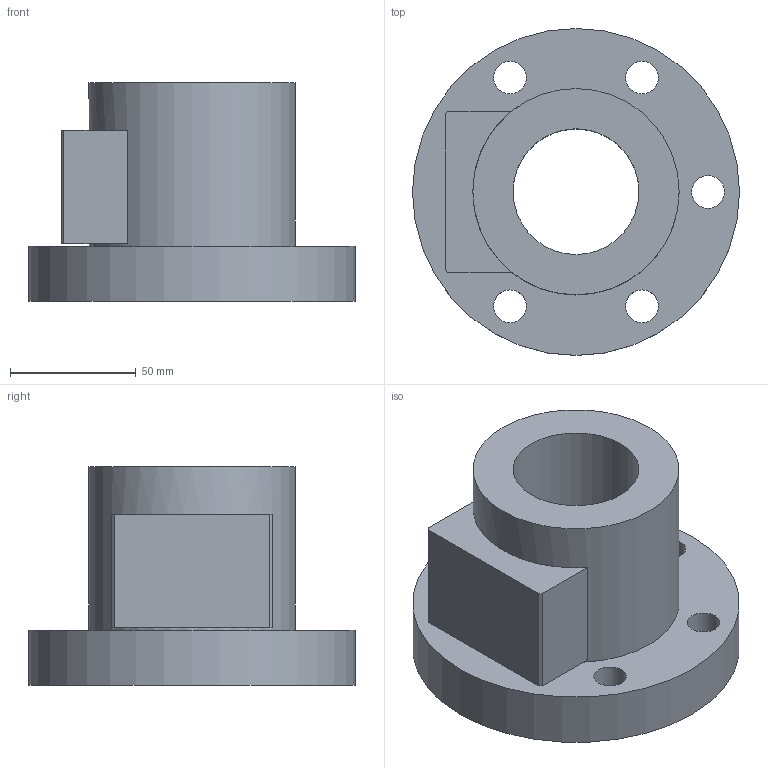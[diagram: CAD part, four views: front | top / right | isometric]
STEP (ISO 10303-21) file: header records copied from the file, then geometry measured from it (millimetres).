
FILE_DESCRIPTION(/* description */ (''),/* implementation_level */ '2;1');
FILE_NAME(/* name */ '50-12B1',/* time_stamp */ '2006-07-31T11:47:21+08:00',/* author */ (''),/* organization */ (''),/* preprocessor_version */ 'ST-DEVELOPER v9',/* originating_system */ 'UGS - NX 4.0',/* authorisation */ '');
FILE_SCHEMA (('CONFIG_CONTROL_DESIGN'));
Length unit declared in the file: millimetre
Products named in the file (1): 50-12B1
Bounding box: 130 x 130 x 87 mm (x, y, z)
Volume: 483128.7 mm3; surface area: 70508.9 mm2
Topology: 1 solids, 1 shells, 28 faces, 61 edges, 42 vertices
Faces by surface type: plane 15, cylinder 13
Full cylindrical faces by diameter (mm): 13 x5, 20 x5, 50 x1, 82 x1, 130 x1
Entity records: 794 total; most frequent: DIRECTION 130, CARTESIAN_POINT 111, ORIENTED_EDGE 88, EDGE_LOOP 60, AXIS2_PLACEMENT_3D 57, FACE_BOUND 45, EDGE_CURVE 44, VERTEX_POINT 38
